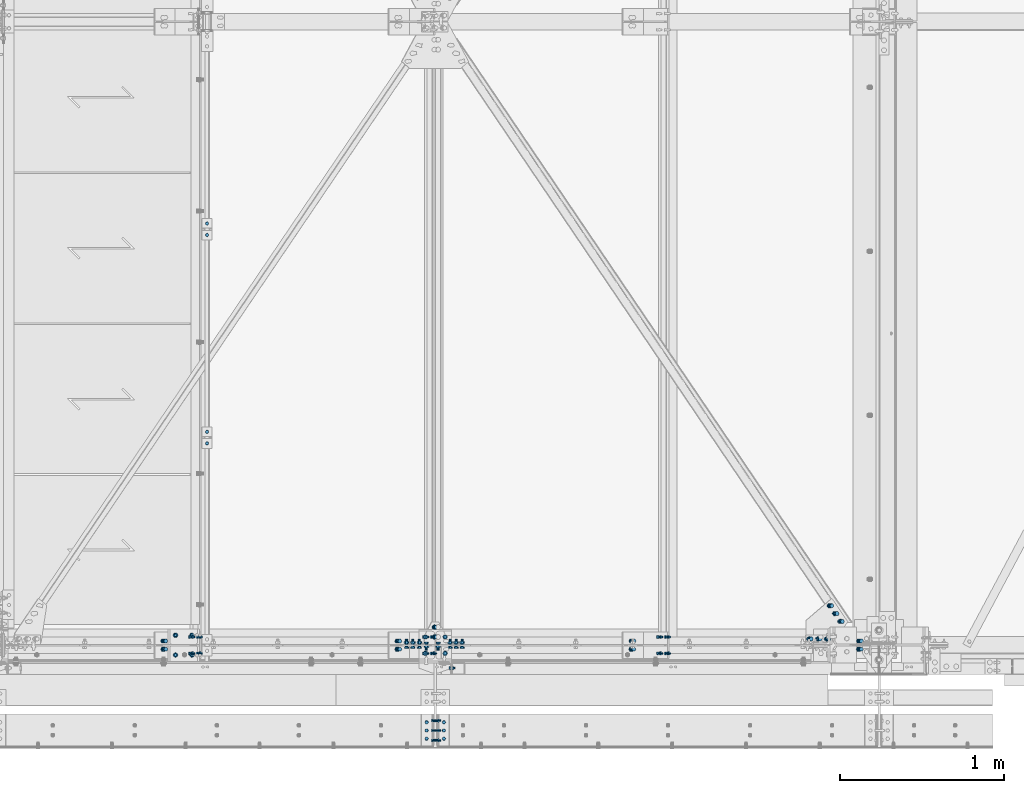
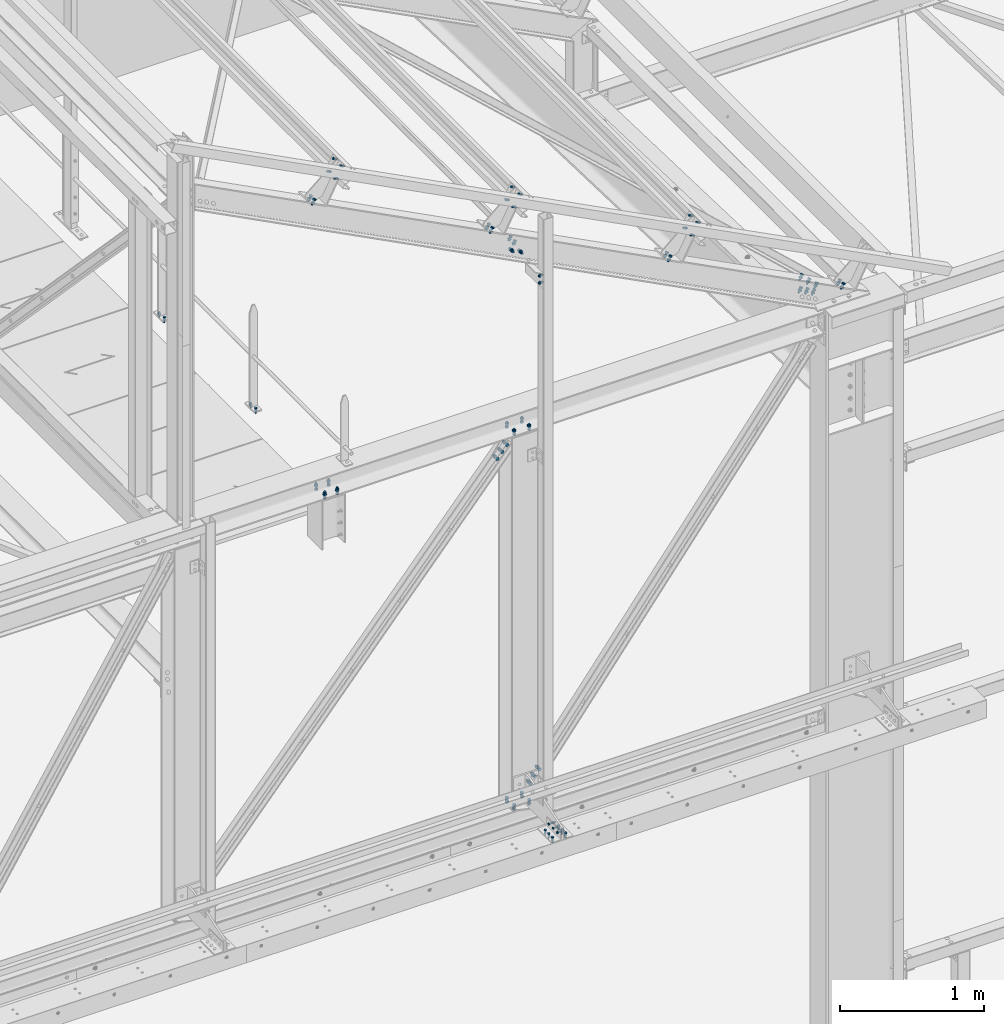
# One storey, part 165 of 362: 22 mechanical fasteners.
"""IFC2X3 building model written with IfcOpenShell, lengths in millimetres."""

from ifc_helpers import new_model, si_unit, frame, frame_2d, origin_with_axes, origin_2d_with_axis, place, context, subcontext, project, spatial, polyline, circle_curve, parameter, trimmed, segment, composite_curve, circle, outline, extrude, source, transform, mapped, material, type_object, element, save


model = new_model("IFC2X3")

# Units and contexts
model_context = context("Model", 3, precision=1e-05, world=origin_with_axes())
body_context = subcontext(model_context, "Body", "Model", "MODEL_VIEW")
ifc_project = project(units=[si_unit("LENGTHUNIT", "METRE", prefix="MILLI"), si_unit("AREAUNIT", "SQUARE_METRE"), si_unit("VOLUMEUNIT", "CUBIC_METRE"), si_unit("MASSUNIT", "GRAM", prefix="KILO"), si_unit("TIMEUNIT", "SECOND"), si_unit("PLANEANGLEUNIT", "RADIAN"), si_unit("SOLIDANGLEUNIT", "STERADIAN"), si_unit("THERMODYNAMICTEMPERATUREUNIT", "DEGREE_CELSIUS"), si_unit("LUMINOUSINTENSITYUNIT", "LUMEN")], contexts=[model_context])

# Site, building, storey
site_placement = place(None, origin_with_axes())
site = spatial("IfcSite", under=ifc_project, at=site_placement, Name="Undefined", CompositionType="ELEMENT")
building_placement = place(site_placement, origin_with_axes())
building = spatial("IfcBuilding", under=site, at=building_placement, Name="Undefined", CompositionType="ELEMENT")
storey_placement = place(building_placement, origin_with_axes())
storey = spatial("IfcBuildingStorey", under=building, at=storey_placement, Name="Undefined", CompositionType="ELEMENT", Elevation=0.0)

# Mechanical fasteners
ifc_material_1 = material(Name="8.8-SB-ZINGUE")
mechanical_fastener_type = type_object("IfcMechanicalFastenerType", Name="Bolt assembly")
shared_shape_1 = source(origin_with_axes(), body_context, "Body", "SweptSolid", [
    extrude(circle(Radius=7.0, at=origin_2d_with_axis()), frame((0.0, -7.5, 0.0), z_axis=(0.0, 1.0, 0.0), x_axis=(1.0, 0.0, 0.0)), (0.0, 0.0, 1.0), 15.0),
    extrude(circle(Radius=7.0, at=origin_2d_with_axis()), frame((0.0, -15.4, 0.0), z_axis=(0.0, 1.0, 0.0), x_axis=(1.0, 0.0, 0.0)), (0.0, 0.0, 1.0), 8.0),
    extrude(circle(Radius=7.0, at=origin_2d_with_axis()), frame((0.0, 7.39216762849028, 0.0), z_axis=(0.0, 1.0, 0.0), x_axis=(1.0, 0.0, 0.0)), (0.0, 0.0, 1.0), 8.1),
    extrude(outline(polyline([(10.39230484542, 0.0), (5.19615242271, 9.00000000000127), (-5.19615242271, 9.00000000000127), (-10.39230484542, 0.0), (-5.19615242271, -9.00000000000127), (5.19615242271, -9.00000000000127), (10.39230484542, 0.0)])), frame((0.0, -23.42, 0.0), z_axis=(0.0, 1.0, 0.0), x_axis=(1.0, 0.0, 0.0)), (0.0, 0.0, 1.0), 7.92),
    extrude(circle(Radius=6.0, at=origin_2d_with_axis()), frame((0.0, -15.5, 0.0), z_axis=(0.0, 1.0, 0.0), x_axis=(1.0, 0.0, 0.0)), (0.0, 0.0, 1.0), 50.0),
    extrude(outline(polyline([(11.5008173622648, 0.0), (5.7504086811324, 9.96000000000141), (-5.7504086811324, 9.96000000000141), (-11.5008173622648, 0.0), (-5.7504086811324, -9.96000000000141), (5.7504086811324, -9.96000000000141), (11.5008173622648, 0.0)])), frame((0.0, 15.4921676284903, 0.0), z_axis=(0.0, 1.0, 0.0), x_axis=(1.0, 0.0, 0.0)), (0.0, 0.0, 1.0), 7.92),
])
mechanical_fastener_1_placement = place(storey_placement, frame((26175.0, -520.0, 5274.99824538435), z_axis=(0.0, -1.0, 0.0), x_axis=(0.0, 0.0, -1.0)))
element("IfcMechanicalFastener", 1, at=mechanical_fastener_1_placement, inside=storey, type_object=mechanical_fastener_type, material=ifc_material_1, Name="Bolt assembly", NominalDiameter=12.0, NominalLength=50.0, context=body_context, shape_type="MappedRepresentation", body=[
    mapped(shared_shape_1, transform((0.0, 0.0, -60.0))),
    mapped(shared_shape_1, transform((0.0, 0.0, 0.0))),
    mapped(shared_shape_1, transform((0.0, 0.0, 60.0))),
])
shared_shape_2 = source(origin_with_axes(), body_context, "Body", "SweptSolid", [
    extrude(circle(Radius=7.0, at=origin_2d_with_axis()), frame((0.0, -0.100011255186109, 0.0), z_axis=(0.0, 1.0, 0.0), x_axis=(1.0, 0.0, 0.0)), (0.0, 0.0, 1.0), 8.6),
    extrude(circle(Radius=7.0, at=origin_2d_with_axis()), frame((0.0, -7.9, 0.0), z_axis=(0.0, 1.0, 0.0), x_axis=(1.0, 0.0, 0.0)), (0.0, 0.0, 1.0), 8.0),
    extrude(outline(polyline([(10.39230484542, 0.0), (5.19615242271, 9.00000000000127), (-5.19615242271, 9.00000000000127), (-10.39230484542, 0.0), (-5.19615242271, -9.00000000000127), (5.19615242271, -9.00000000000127), (10.39230484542, 0.0)])), frame((0.0, -15.92, 0.0), z_axis=(0.0, 1.0, 0.0), x_axis=(1.0, 0.0, 0.0)), (0.0, 0.0, 1.0), 7.92),
    extrude(circle(Radius=6.0, at=origin_2d_with_axis()), frame((0.0, -8.0, 0.0), z_axis=(0.0, 1.0, 0.0), x_axis=(1.0, 0.0, 0.0)), (0.0, 0.0, 1.0), 40.0),
    extrude(outline(polyline([(11.5008173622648, 0.0), (5.7504086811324, 9.96000000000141), (-5.7504086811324, 9.96000000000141), (-11.5008173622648, 0.0), (-5.7504086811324, -9.96000000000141), (5.7504086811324, -9.96000000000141), (11.5008173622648, 0.0)])), frame((0.0, 8.49999994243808, 0.0), z_axis=(0.0, 1.0, 0.0), x_axis=(1.0, 0.0, 0.0)), (0.0, 0.0, 1.0), 7.92),
])
for number, where, z_axis, x_axis, name in (
    (2, (26227.4921676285, -520.0, 5229.99824532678), (0.0, -1.0, 0.0), (-1.0, 0.0, 0.0), "Bolt assembly"),
    (3, (26122.5, -520.0, 5229.99824532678), (0.0, 1.0, 0.0), (1.0, 0.0, 0.0), "Bolt assembly"),
):
    element("IfcMechanicalFastener", number, at=place(storey_placement, frame(where, z_axis=z_axis, x_axis=x_axis)), inside=storey, type_object=mechanical_fastener_type, material=ifc_material_1, Name=name, NominalDiameter=12.0, NominalLength=40.0, context=body_context, shape_type="MappedRepresentation", body=[
        mapped(shared_shape_2, transform((0.0, 0.0, -50.0))),
        mapped(shared_shape_2, transform((0.0, 0.0, 0.0))),
        mapped(shared_shape_2, transform((0.0, 0.0, 50.0))),
    ])
shared_shape_3 = source(origin_with_axes(), body_context, "Body", "SweptSolid", [
    extrude(circle(Radius=7.0, at=origin_2d_with_axis()), frame((0.0, -0.100011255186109, 0.0), z_axis=(0.0, 1.0, 0.0), x_axis=(1.0, 0.0, 0.0)), (0.0, 0.0, 1.0), 4.1),
    extrude(outline(composite_curve([segment(polyline([(-10.5, 7.0), (10.5, 7.0)]), True, "CONTINUOUS"), segment(trimmed(circle_curve(frame_2d((10.5, 0.0), x_axis=(0.0, 1.0)), 7.0), [parameter(0.0)], [parameter(3.14159265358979)], False, "PARAMETER"), True, "CONTINUOUS"), segment(polyline([(10.5, -7.0), (-10.5, -7.0)]), True, "CONTINUOUS"), segment(trimmed(circle_curve(frame_2d((-10.5, 0.0), x_axis=(0.0, -1.0)), 7.0), [parameter(0.0)], [parameter(3.14159265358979)], False, "PARAMETER"), True, "DISCONTINUOUS")], self_intersect=False)), frame((0.0, -4.90000000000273, 0.0), z_axis=(0.0, 1.0, 0.0), x_axis=(1.0, 0.0, 0.0)), (0.0, 0.0, 1.0), 5.0),
    extrude(outline(polyline([(10.39230484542, 0.0), (5.19615242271, 9.00000000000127), (-5.19615242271, 9.00000000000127), (-10.39230484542, 0.0), (-5.19615242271, -9.00000000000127), (5.19615242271, -9.00000000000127), (10.39230484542, 0.0)])), frame((0.0, -16.8799999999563, 0.0), z_axis=(0.0, 1.0, 0.0), x_axis=(1.0, 0.0, 0.0)), (0.0, 0.0, 1.0), 7.92),
    extrude(circle(Radius=6.0, at=origin_2d_with_axis()), frame((0.0, -8.95999999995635, 0.0), z_axis=(0.0, 1.0, 0.0), x_axis=(1.0, 0.0, 0.0)), (0.0, 0.0, 1.0), 30.0),
    extrude(circle(Radius=10.8, at=origin_2d_with_axis()), frame((0.0, -8.95999999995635, 0.0), z_axis=(0.0, 1.0, 0.0), x_axis=(1.0, 0.0, 0.0)), (0.0, 0.0, 1.0), 3.96),
    extrude(outline(polyline([(11.5008173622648, 0.0), (5.7504086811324, 9.96000000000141), (-5.7504086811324, 9.96000000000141), (-11.5008173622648, 0.0), (-5.7504086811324, -9.96000000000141), (5.7504086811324, -9.96000000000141), (11.5008173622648, 0.0)])), frame((0.0, 4.00000005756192, 0.0), z_axis=(0.0, 1.0, 0.0), x_axis=(1.0, 0.0, 0.0)), (0.0, 0.0, 1.0), 7.92),
])
mechanical_fastener_2_placement = place(storey_placement, frame((26274.9999999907, -139.999999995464, 9626.46897402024), z_axis=(0.0, 1.0, 0.0), x_axis=(0.0, 0.0, 1.0)))
element("IfcMechanicalFastener", 4, at=mechanical_fastener_2_placement, inside=storey, type_object=mechanical_fastener_type, material=ifc_material_1, Name="Bolt assembly", NominalDiameter=12.0, NominalLength=30.0, context=body_context, shape_type="MappedRepresentation", body=[
    mapped(shared_shape_3, transform((0.0, 0.0, 0.0))),
    mapped(shared_shape_3, transform((60.0, 0.0, 0.0))),
])
shared_shape_4 = source(origin_with_axes(), body_context, "Body", "SweptSolid", [
    extrude(circle(Radius=9.0, at=origin_2d_with_axis()), frame((0.0, -10.9000000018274, 0.0), z_axis=(0.0, 1.0, 0.0), x_axis=(1.0, 0.0, 0.0)), (0.0, 0.0, 1.0), 6.0),
    extrude(circle(Radius=9.0, at=origin_2d_with_axis()), frame((0.0, 4.9000000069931, 0.0), z_axis=(0.0, 1.0, 0.0), x_axis=(1.0, 0.0, 0.0)), (0.0, 0.0, 1.0), 6.1),
    extrude(circle(Radius=9.0, at=origin_2d_with_axis()), frame((0.0, -3.99999923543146, 0.0), z_axis=(0.0, 1.0, 0.0), x_axis=(1.0, 0.0, 0.0)), (0.0, 0.0, 1.0), 8.0),
    extrude(outline(polyline([(13.85640646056, 0.0), (6.92820323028, 12.0000000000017), (-6.92820323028, 12.0000000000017), (-13.85640646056, 0.0), (-6.92820323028, -12.0000000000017), (6.92820323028, -12.0000000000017), (13.85640646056, 0.0)])), frame((0.0, -21.5600000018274, 0.0), z_axis=(0.0, 1.0, 0.0), x_axis=(1.0, 0.0, 0.0)), (0.0, 0.0, 1.0), 10.56),
    extrude(circle(Radius=8.0, at=origin_2d_with_axis()), frame((0.0, -11.0000000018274, 0.0), z_axis=(0.0, 1.0, 0.0), x_axis=(1.0, 0.0, 0.0)), (0.0, 0.0, 1.0), 50.0),
    extrude(outline(polyline([(15.3344231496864, 0.0), (7.6672115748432, 13.2800000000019), (-7.6672115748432, 13.2800000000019), (-15.3344231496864, 0.0), (-7.6672115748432, -13.2800000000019), (7.6672115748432, -13.2800000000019), (15.3344231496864, 0.0)])), frame((0.0, 11.0000000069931, 0.0), z_axis=(0.0, 1.0, 0.0), x_axis=(1.0, 0.0, 0.0)), (0.0, 0.0, 1.0), 10.56),
])
for number, where, z_axis, x_axis, name in (
    (5, (26077.6333130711, 0.0, 8245.89514782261), (0.760694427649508, 0.0, -0.649110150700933), (-0.649110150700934, 0.0, -0.760694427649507), "Bolt assembly"),
    (6, (26265.6621353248, 0.0, 5309.5067793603), (-0.796670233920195, 0.0, 0.604414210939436), (0.604414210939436, 0.0, 0.796670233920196), "Bolt assembly"),
):
    element("IfcMechanicalFastener", number, at=place(storey_placement, frame(where, z_axis=z_axis, x_axis=x_axis)), inside=storey, type_object=mechanical_fastener_type, material=ifc_material_1, Name=name, NominalDiameter=16.0, NominalLength=50.0, context=body_context, shape_type="MappedRepresentation", body=[
        mapped(shared_shape_4, transform((0.0, 0.0, 0.0))),
        mapped(shared_shape_4, transform((60.0, 0.0, 0.0))),
        mapped(shared_shape_4, transform((120.0, 0.0, 0.0))),
    ])
shared_shape_5 = source(origin_with_axes(), body_context, "Body", "SweptSolid", [
    extrude(circle(Radius=7.0, at=origin_2d_with_axis()), frame((0.0, -10.0000010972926, 0.0), z_axis=(0.0, 1.0, 0.0), x_axis=(1.0, 0.0, 0.0)), (0.0, 0.0, 1.0), 10.1),
    extrude(outline(polyline([(10.39230484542, 0.0), (5.19615242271, 9.00000000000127), (-5.19615242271, 9.00000000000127), (-10.39230484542, 0.0), (-5.19615242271, -9.00000000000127), (5.19615242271, -9.00000000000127), (10.39230484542, 0.0)])), frame((0.0, -17.92, 0.0), z_axis=(0.0, 1.0, 0.0), x_axis=(1.0, 0.0, 0.0)), (0.0, 0.0, 1.0), 7.92),
    extrude(circle(Radius=6.0, at=origin_2d_with_axis()), frame((0.0, -10.0000010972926, 0.0), z_axis=(0.0, 1.0, 0.0), x_axis=(1.0, 0.0, 0.0)), (0.0, 0.0, 1.0), 40.0),
    extrude(outline(polyline([(11.5008173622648, 0.0), (5.7504086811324, 9.96000000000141), (-5.7504086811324, 9.96000000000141), (-11.5008173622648, 0.0), (-5.7504086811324, -9.96000000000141), (5.7504086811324, -9.96000000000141), (11.5008173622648, 0.0)])), frame((0.0, 0.0, 0.0), z_axis=(0.0, 1.0, 0.0), x_axis=(1.0, 0.0, 0.0)), (0.0, 0.0, 1.0), 7.92),
])
for number, where, z_axis, x_axis, name in (
    (7, (24783.9915986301, 1230.00343957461, 8240.0000064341), (-1.0, 0.0, 0.0), (0.0, 1.0, 0.0), "Bolt assembly"),
    (8, (24783.9915996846, 2500.00343957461, 8240.00000556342), (-1.0, 0.0, 0.0), (0.0, 1.0, 0.0), "Bolt assembly"),
):
    element("IfcMechanicalFastener", number, at=place(storey_placement, frame(where, z_axis=z_axis, x_axis=x_axis)), inside=storey, type_object=mechanical_fastener_type, material=ifc_material_1, Name=name, NominalDiameter=12.0, NominalLength=40.0, context=body_context, shape_type="MappedRepresentation", body=[
        mapped(shared_shape_5, transform((0.0, 0.0, 0.0))),
        mapped(shared_shape_5, transform((70.0, -2.91038304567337e-11, 2.18278728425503e-10))),
    ])
shared_shape_6 = source(origin_with_axes(), body_context, "Body", "SweptSolid", [
    extrude(circle(Radius=9.0, at=origin_2d_with_axis()), frame((0.0, -0.0990448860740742, 0.0), z_axis=(0.0, 1.0, 0.0), x_axis=(1.0, 0.0, 0.0)), (0.0, 0.0, 1.0), 10.1),
    extrude(circle(Radius=9.0, at=origin_2d_with_axis()), frame((0.0, -9.9, 0.0), z_axis=(0.0, 1.0, 0.0), x_axis=(1.0, 0.0, 0.0)), (0.0, 0.0, 1.0), 10.0),
    extrude(outline(polyline([(13.85640646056, 0.0), (6.92820323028, 12.0000000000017), (-6.92820323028, 12.0000000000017), (-13.85640646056, 0.0), (-6.92820323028, -12.0000000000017), (6.92820323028, -12.0000000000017), (13.85640646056, 0.0)])), frame((0.0, -20.5600000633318, 0.0), z_axis=(0.0, 1.0, 0.0), x_axis=(1.0, 0.0, 0.0)), (0.0, 0.0, 1.0), 10.56),
    extrude(circle(Radius=8.0, at=origin_2d_with_axis()), frame((0.0, -10.0000010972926, 0.0), z_axis=(0.0, 1.0, 0.0), x_axis=(1.0, 0.0, 0.0)), (0.0, 0.0, 1.0), 50.0),
    extrude(circle(Radius=14.4, at=origin_2d_with_axis()), frame((0.0, 10.0009790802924, 0.0), z_axis=(0.0, 1.0, 0.0), x_axis=(1.0, 0.0, 0.0)), (0.0, 0.0, 1.0), 5.28),
    extrude(outline(polyline([(15.3344231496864, 0.0), (7.6672115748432, 13.2800000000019), (-7.6672115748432, 13.2800000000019), (-15.3344231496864, 0.0), (-7.6672115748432, -13.2800000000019), (7.6672115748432, -13.2800000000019), (15.3344231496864, 0.0)])), frame((0.0, 15.2809790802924, 0.0), z_axis=(0.0, 1.0, 0.0), x_axis=(1.0, 0.0, 0.0)), (0.0, 0.0, 1.0), 10.56),
])
mechanical_fastener_3_placement = place(storey_placement, frame((24591.4916208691, 0.0, 8359.99444987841), z_axis=(0.0, -1.0, 0.0), x_axis=(1.0, 0.0, 0.0)))
element("IfcMechanicalFastener", 9, at=mechanical_fastener_3_placement, inside=storey, type_object=mechanical_fastener_type, material=ifc_material_1, Name="Bolt assembly", NominalDiameter=16.0, NominalLength=50.0, context=body_context, shape_type="MappedRepresentation", body=[
    mapped(shared_shape_6, transform((0.0, 0.0, -60.0))),
    mapped(shared_shape_6, transform((99.9999999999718, 0.0, -60.0000000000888))),
    mapped(shared_shape_6, transform((0.0, 0.0, 60.0))),
    mapped(shared_shape_6, transform((100.000000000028, 0.0, 59.9999999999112))),
])
ifc_material_2 = material(Name="#_SB-8.8-ZINGUE")
shared_shape_7 = source(origin_with_axes(), body_context, "Body", "SweptSolid", [
    extrude(circle(Radius=9.0, at=origin_2d_with_axis()), frame((0.0, -5.8999542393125, 0.0), z_axis=(0.0, 1.0, 0.0), x_axis=(1.0, 0.0, 0.0)), (0.0, 0.0, 1.0), 6.0),
    extrude(circle(Radius=9.0, at=origin_2d_with_axis()), frame((0.0, -0.100011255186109, 0.0), z_axis=(0.0, 1.0, 0.0), x_axis=(1.0, 0.0, 0.0)), (0.0, 0.0, 1.0), 6.1),
    extrude(outline(polyline([(13.85640646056, 0.0), (6.92820323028, 12.0000000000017), (-6.92820323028, 12.0000000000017), (-13.85640646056, 0.0), (-6.92820323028, -12.0000000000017), (6.92820323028, -12.0000000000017), (13.85640646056, 0.0)])), frame((0.0, -16.5599209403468, 0.0), z_axis=(0.0, 1.0, 0.0), x_axis=(1.0, 0.0, 0.0)), (0.0, 0.0, 1.0), 10.56),
    extrude(circle(Radius=8.0, at=origin_2d_with_axis()), frame((0.0, -5.9999542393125, 0.0), z_axis=(0.0, 1.0, 0.0), x_axis=(1.0, 0.0, 0.0)), (0.0, 0.0, 1.0), 40.0),
    extrude(outline(polyline([(15.3344231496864, 0.0), (7.6672115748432, 13.2800000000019), (-7.6672115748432, 13.2800000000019), (-15.3344231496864, 0.0), (-7.6672115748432, -13.2800000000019), (7.6672115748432, -13.2800000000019), (15.3344231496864, 0.0)])), frame((0.0, 6.0, 0.0), z_axis=(0.0, 1.0, 0.0), x_axis=(1.0, 0.0, 0.0)), (0.0, 0.0, 1.0), 10.56),
])
mechanical_fastener_4_placement = place(storey_placement, frame((28648.8207074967, 144.810250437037, 8608.987696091), z_axis=(-0.706117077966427, -0.606225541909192, 0.365908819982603), x_axis=(-0.538249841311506, 0.795292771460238, 0.278920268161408)))
element("IfcMechanicalFastener", 10, at=mechanical_fastener_4_placement, inside=storey, type_object=mechanical_fastener_type, material=ifc_material_2, Name="Bolt assembly", NominalDiameter=16.0, NominalLength=40.0, context=body_context, shape_type="MappedRepresentation", body=[
    mapped(shared_shape_7, transform((0.0, 0.0, 0.0))),
    mapped(shared_shape_7, transform((60.0, 0.0, 0.0))),
    mapped(shared_shape_7, transform((120.0, 0.0, 0.0))),
])
shared_shape_8 = source(origin_with_axes(), body_context, "Body", "SweptSolid", [
    extrude(circle(Radius=7.0, at=origin_2d_with_axis()), frame((0.0, -0.100011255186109, 0.0), z_axis=(0.0, 1.0, 0.0), x_axis=(1.0, 0.0, 0.0)), (0.0, 0.0, 1.0), 1.6),
    extrude(circle(Radius=7.0, at=origin_2d_with_axis()), frame((0.0, -9.9, 0.0), z_axis=(0.0, 1.0, 0.0), x_axis=(1.0, 0.0, 0.0)), (0.0, 0.0, 1.0), 10.0),
    extrude(outline(polyline([(10.39230484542, 0.0), (5.19615242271, 9.00000000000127), (-5.19615242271, 9.00000000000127), (-10.39230484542, 0.0), (-5.19615242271, -9.00000000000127), (5.19615242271, -9.00000000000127), (10.39230484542, 0.0)])), frame((0.0, -17.92, 0.0), z_axis=(0.0, 1.0, 0.0), x_axis=(1.0, 0.0, 0.0)), (0.0, 0.0, 1.0), 7.92),
    extrude(circle(Radius=6.0, at=origin_2d_with_axis()), frame((0.0, -10.0000010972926, 0.0), z_axis=(0.0, 1.0, 0.0), x_axis=(1.0, 0.0, 0.0)), (0.0, 0.0, 1.0), 30.0),
    extrude(outline(polyline([(11.5008173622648, 0.0), (5.7504086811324, 9.96000000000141), (-5.7504086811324, 9.96000000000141), (-11.5008173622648, 0.0), (-5.7504086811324, -9.96000000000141), (5.7504086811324, -9.96000000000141), (11.5008173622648, 0.0)])), frame((0.0, 1.50001896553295, 0.0), z_axis=(0.0, 1.0, 0.0), x_axis=(1.0, 0.0, 0.0)), (0.0, 0.0, 1.0), 7.92),
])
for number, where, z_axis, x_axis, name in (
    (11, (24690.1060148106, 5.9655603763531e-05, 11008.4114172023), (0.0, 1.0, 0.0), (0.460093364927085, 0.0, 0.887870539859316), "Bolt assembly"),
    (12, (27543.3560162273, 5.9655603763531e-05, 9529.86146341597), (0.0, 1.0, 0.0), (0.460093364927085, 0.0, 0.887870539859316), "Bolt assembly"),
    (13, (26116.7310155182, 5.9655603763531e-05, 10269.1364403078), (0.0, 1.0, 0.0), (0.460093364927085, 0.0, 0.887870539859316), "Bolt assembly"),
):
    element("IfcMechanicalFastener", number, at=place(storey_placement, frame(where, z_axis=z_axis, x_axis=x_axis)), inside=storey, type_object=mechanical_fastener_type, material=ifc_material_1, Name=name, NominalDiameter=12.0, NominalLength=30.0, context=body_context, shape_type="MappedRepresentation", body=[
        mapped(shared_shape_8, transform((0.0, 0.0, -50.0))),
        mapped(shared_shape_8, transform((102.00000000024, -2.51020537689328e-10, -50.0))),
        mapped(shared_shape_8, transform((0.0, 0.0, 50.0))),
        mapped(shared_shape_8, transform((102.00000000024, -2.51020537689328e-10, 50.0))),
    ])
shared_shape_9 = source(origin_with_axes(), body_context, "Body", "SweptSolid", [
    extrude(circle(Radius=9.0, at=origin_2d_with_axis()), frame((0.0, -0.0999426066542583, 0.0), z_axis=(0.0, 1.0, 0.0), x_axis=(1.0, 0.0, 0.0)), (0.0, 0.0, 1.0), 8.6),
    extrude(circle(Radius=9.0, at=origin_2d_with_axis()), frame((0.0, -9.9, 0.0), z_axis=(0.0, 1.0, 0.0), x_axis=(1.0, 0.0, 0.0)), (0.0, 0.0, 1.0), 10.0),
    extrude(outline(polyline([(13.85640646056, 0.0), (6.92820323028, 12.0000000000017), (-6.92820323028, 12.0000000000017), (-13.85640646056, 0.0), (-6.92820323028, -12.0000000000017), (6.92820323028, -12.0000000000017), (13.85640646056, 0.0)])), frame((0.0, -20.5600000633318, 0.0), z_axis=(0.0, 1.0, 0.0), x_axis=(1.0, 0.0, 0.0)), (0.0, 0.0, 1.0), 10.56),
    extrude(circle(Radius=8.0, at=origin_2d_with_axis()), frame((0.0, -10.0000010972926, 0.0), z_axis=(0.0, 1.0, 0.0), x_axis=(1.0, 0.0, 0.0)), (0.0, 0.0, 1.0), 40.0),
    extrude(outline(polyline([(15.3344231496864, 0.0), (7.6672115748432, 13.2800000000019), (-7.6672115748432, 13.2800000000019), (-15.3344231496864, 0.0), (-7.6672115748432, -13.2800000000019), (7.6672115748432, -13.2800000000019), (15.3344231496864, 0.0)])), frame((0.0, 8.50005763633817, 0.0), z_axis=(0.0, 1.0, 0.0), x_axis=(1.0, 0.0, 0.0)), (0.0, 0.0, 1.0), 10.56),
])
for number, where, z_axis, x_axis, name in (
    (14, (24522.9168670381, 3.75141407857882e-05, 10859.6539862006), (0.0, 1.0, 0.0), (0.887870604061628, 0.0, -0.460093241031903), "Bolt assembly"),
    (15, (28762.8377191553, 3.75141407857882e-05, 8662.53323728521), (0.0, 1.0, 0.0), (0.887870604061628, 0.0, -0.460093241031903), "Bolt assembly"),
    (16, (27376.1668684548, 3.75141407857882e-05, 9381.10403241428), (0.0, 1.0, 0.0), (0.887870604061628, 0.0, -0.460093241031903), "Bolt assembly"),
    (17, (25949.5418677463, 3.75141407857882e-05, 10120.3790093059), (0.0, 1.0, 0.0), (0.887870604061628, 0.0, -0.460093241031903), "Bolt assembly"),
):
    element("IfcMechanicalFastener", number, at=place(storey_placement, frame(where, z_axis=z_axis, x_axis=x_axis)), inside=storey, type_object=mechanical_fastener_type, material=ifc_material_1, Name=name, NominalDiameter=16.0, NominalLength=40.0, context=body_context, shape_type="MappedRepresentation", body=[
        mapped(shared_shape_9, transform((0.0, 0.0, -25.0))),
        mapped(shared_shape_9, transform((0.0, 0.0, 25.0))),
    ])
shared_shape_10 = source(origin_with_axes(), body_context, "Body", "SweptSolid", [
    extrude(circle(Radius=9.0, at=origin_2d_with_axis()), frame((0.0, 0.1, 0.0), z_axis=(0.0, 1.0, 0.0), x_axis=(1.0, 0.0, 0.0)), (0.0, 0.0, 1.0), 6.0),
    extrude(circle(Radius=9.0, at=origin_2d_with_axis()), frame((0.0, 5.90008092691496, 0.0), z_axis=(0.0, 1.0, 0.0), x_axis=(1.0, 0.0, 0.0)), (0.0, 0.0, 1.0), 6.1),
    extrude(outline(polyline([(13.85640646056, 0.0), (6.92820323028, 12.0000000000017), (-6.92820323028, 12.0000000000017), (-13.85640646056, 0.0), (-6.92820323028, -12.0000000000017), (6.92820323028, -12.0000000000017), (13.85640646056, 0.0)])), frame((0.0, -10.5600019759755, 0.0), z_axis=(0.0, 1.0, 0.0), x_axis=(1.0, 0.0, 0.0)), (0.0, 0.0, 1.0), 10.56),
    extrude(circle(Radius=8.0, at=origin_2d_with_axis()), frame((0.0, 0.0, 0.0), z_axis=(0.0, 1.0, 0.0), x_axis=(1.0, 0.0, 0.0)), (0.0, 0.0, 1.0), 40.0),
    extrude(outline(polyline([(15.3344231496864, 0.0), (7.6672115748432, 13.2800000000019), (-7.6672115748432, 13.2800000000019), (-15.3344231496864, 0.0), (-7.6672115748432, -13.2800000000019), (7.6672115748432, -13.2800000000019), (15.3344231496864, 0.0)])), frame((0.0, 12.0000809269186, 0.0), z_axis=(0.0, 1.0, 0.0), x_axis=(1.0, 0.0, 0.0)), (0.0, 0.0, 1.0), 10.56),
])
mechanical_fastener_5_placement = place(storey_placement, frame((28515.9801891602, 38.0001352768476, 8677.82543370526), z_axis=(0.887870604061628, 0.0, -0.460093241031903), x_axis=(0.0, -1.0, 0.0)))
element("IfcMechanicalFastener", 18, at=mechanical_fastener_5_placement, inside=storey, type_object=mechanical_fastener_type, material=ifc_material_2, Name="Bolt assembly", NominalDiameter=16.0, NominalLength=40.0, context=body_context, shape_type="MappedRepresentation", body=[
    mapped(shared_shape_10, transform((0.0, 0.0, -60.0))),
    mapped(shared_shape_10, transform((0.0, 0.0, 0.0))),
    mapped(shared_shape_10, transform((0.0, 0.0, 60.0))),
])
shared_shape_11 = source(origin_with_axes(), body_context, "Body", "SweptSolid", [
    extrude(circle(Radius=9.0, at=origin_2d_with_axis()), frame((0.0, -2.89976548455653, 0.0), z_axis=(0.0, 1.0, 0.0), x_axis=(1.0, 0.0, 0.0)), (0.0, 0.0, 1.0), 5.7),
    extrude(circle(Radius=9.0, at=origin_2d_with_axis()), frame((0.0, -8.90005437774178, 0.0), z_axis=(0.0, 1.0, 0.0), x_axis=(1.0, 0.0, 0.0)), (0.0, 0.0, 1.0), 6.0),
    extrude(outline(polyline([(13.85640646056, 0.0), (6.92820323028, 12.0000000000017), (-6.92820323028, 12.0000000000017), (-13.85640646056, 0.0), (-6.92820323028, -12.0000000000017), (6.92820323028, -12.0000000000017), (13.85640646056, 0.0)])), frame((0.0, -19.5600543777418, 0.0), z_axis=(0.0, 1.0, 0.0), x_axis=(1.0, 0.0, 0.0)), (0.0, 0.0, 1.0), 10.56),
    extrude(circle(Radius=8.0, at=origin_2d_with_axis()), frame((0.0, -9.00005437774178, 0.0), z_axis=(0.0, 1.0, 0.0), x_axis=(1.0, 0.0, 0.0)), (0.0, 0.0, 1.0), 40.0),
    extrude(outline(polyline([(15.3344231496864, 0.0), (7.6672115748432, 13.2800000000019), (-7.6672115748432, 13.2800000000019), (-15.3344231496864, 0.0), (-7.6672115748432, -13.2800000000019), (7.6672115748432, -13.2800000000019), (15.3344231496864, 0.0)])), frame((0.0, 2.80023442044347, 0.0), z_axis=(0.0, 1.0, 0.0), x_axis=(1.0, 0.0, 0.0)), (0.0, 0.0, 1.0), 10.56),
])
mechanical_fastener_6_placement = place(storey_placement, frame((26156.1371301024, 0.000199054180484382, 9854.51471383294), z_axis=(0.887870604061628, 0.0, -0.460093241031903), x_axis=(0.460093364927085, 0.0, 0.887870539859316)))
element("IfcMechanicalFastener", 19, at=mechanical_fastener_6_placement, inside=storey, type_object=mechanical_fastener_type, material=ifc_material_2, Name="Bolt assembly", NominalDiameter=16.0, NominalLength=40.0, context=body_context, shape_type="MappedRepresentation", body=[
    mapped(shared_shape_11, transform((0.0, 0.0, -40.0))),
    mapped(shared_shape_11, transform((0.0, 0.0, 40.0))),
])
shared_shape_12 = source(origin_with_axes(), body_context, "Body", "SweptSolid", [
    extrude(circle(Radius=9.0, at=origin_2d_with_axis()), frame((0.0, -3.89991628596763, 0.0), z_axis=(0.0, 1.0, 0.0), x_axis=(1.0, 0.0, 0.0)), (0.0, 0.0, 1.0), 4.0),
    extrude(circle(Radius=9.0, at=origin_2d_with_axis()), frame((0.0, -0.10007666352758, 0.0), z_axis=(0.0, 1.0, 0.0), x_axis=(1.0, 0.0, 0.0)), (0.0, 0.0, 1.0), 6.1),
    extrude(outline(polyline([(13.85640646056, 0.0), (6.92820323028, 12.0000000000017), (-6.92820323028, 12.0000000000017), (-13.85640646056, 0.0), (-6.92820323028, -12.0000000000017), (6.92820323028, -12.0000000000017), (13.85640646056, 0.0)])), frame((0.0, -14.55994727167, 0.0), z_axis=(0.0, 1.0, 0.0), x_axis=(1.0, 0.0, 0.0)), (0.0, 0.0, 1.0), 10.56),
    extrude(circle(Radius=8.0, at=origin_2d_with_axis()), frame((0.0, -3.99991628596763, 0.0), z_axis=(0.0, 1.0, 0.0), x_axis=(1.0, 0.0, 0.0)), (0.0, 0.0, 1.0), 30.0),
    extrude(outline(polyline([(15.3344231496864, 0.0), (7.6672115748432, 13.2800000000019), (-7.6672115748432, 13.2800000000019), (-15.3344231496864, 0.0), (-7.6672115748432, -13.2800000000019), (7.6672115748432, -13.2800000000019), (15.3344231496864, 0.0)])), frame((0.0, 6.0, 0.0), z_axis=(0.0, 1.0, 0.0), x_axis=(1.0, 0.0, 0.0)), (0.0, 0.0, 1.0), 10.56),
])
mechanical_fastener_7_placement = place(storey_placement, frame((26175.004317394, 50.0002539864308, 9890.91570238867), z_axis=(-0.887870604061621, -1.29999898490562e-08, 0.460093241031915), x_axis=(0.0, 1.0, 0.0)))
element("IfcMechanicalFastener", 20, at=mechanical_fastener_7_placement, inside=storey, type_object=mechanical_fastener_type, material=ifc_material_2, Name="Bolt assembly", NominalDiameter=16.0, NominalLength=30.0, context=body_context, shape_type="MappedRepresentation", body=[
    mapped(shared_shape_12, transform((0.0, 0.0, 0.0))),
    mapped(shared_shape_12, transform((60.0, 0.0, 0.0))),
])
shared_shape_13 = source(origin_with_axes(), body_context, "Body", "SweptSolid", [
    extrude(circle(Radius=9.0, at=origin_2d_with_axis()), frame((0.0, -0.0998569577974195, 0.0), z_axis=(0.0, 1.0, 0.0), x_axis=(1.0, 0.0, 0.0)), (0.0, 0.0, 1.0), 10.1),
    extrude(circle(Radius=9.0, at=origin_2d_with_axis()), frame((0.0, -9.9, 0.0), z_axis=(0.0, 1.0, 0.0), x_axis=(1.0, 0.0, 0.0)), (0.0, 0.0, 1.0), 10.0),
    extrude(outline(polyline([(13.85640646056, 0.0), (6.92820323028, 12.0000000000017), (-6.92820323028, 12.0000000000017), (-13.85640646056, 0.0), (-6.92820323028, -12.0000000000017), (6.92820323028, -12.0000000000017), (13.85640646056, 0.0)])), frame((0.0, -20.5600000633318, 0.0), z_axis=(0.0, 1.0, 0.0), x_axis=(1.0, 0.0, 0.0)), (0.0, 0.0, 1.0), 10.56),
    extrude(circle(Radius=8.0, at=origin_2d_with_axis()), frame((0.0, -10.0000010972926, 0.0), z_axis=(0.0, 1.0, 0.0), x_axis=(1.0, 0.0, 0.0)), (0.0, 0.0, 1.0), 40.0),
    extrude(outline(polyline([(15.3344231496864, 0.0), (7.6672115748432, 13.2800000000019), (-7.6672115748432, 13.2800000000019), (-15.3344231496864, 0.0), (-7.6672115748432, -13.2800000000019), (7.6672115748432, -13.2800000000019), (15.3344231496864, 0.0)])), frame((0.0, 10.0001086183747, 0.0), z_axis=(0.0, 1.0, 0.0), x_axis=(1.0, 0.0, 0.0)), (0.0, 0.0, 1.0), 10.56),
])
mechanical_fastener_8_placement = place(storey_placement, frame((26235.0013899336, 0.0, 5190.00068570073), z_axis=(0.0, -1.0, 0.0), x_axis=(-1.0, 0.0, 0.0)))
element("IfcMechanicalFastener", 21, at=mechanical_fastener_8_placement, inside=storey, type_object=mechanical_fastener_type, material=ifc_material_1, Name="Bolt assembly", NominalDiameter=16.0, NominalLength=40.0, context=body_context, shape_type="MappedRepresentation", body=[
    mapped(shared_shape_13, transform((0.0, 0.0, -50.0))),
    mapped(shared_shape_13, transform((120.0, -4.36557456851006e-10, -50.0))),
    mapped(shared_shape_13, transform((0.0, 0.0, 50.0))),
    mapped(shared_shape_13, transform((120.0, -4.36557456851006e-10, 50.0))),
])
shared_shape_14 = source(origin_with_axes(), body_context, "Body", "SweptSolid", [
    extrude(circle(Radius=9.0, at=origin_2d_with_axis()), frame((0.0, -0.104291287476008, 0.0), z_axis=(0.0, 1.0, 0.0), x_axis=(1.0, 0.0, 0.0)), (0.0, 0.0, 1.0), 10.1),
    extrude(circle(Radius=9.0, at=origin_2d_with_axis()), frame((0.0, -9.9, 0.0), z_axis=(0.0, 1.0, 0.0), x_axis=(1.0, 0.0, 0.0)), (0.0, 0.0, 1.0), 10.0),
    extrude(outline(polyline([(13.85640646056, 0.0), (6.92820323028, 12.0000000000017), (-6.92820323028, 12.0000000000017), (-13.85640646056, 0.0), (-6.92820323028, -12.0000000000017), (6.92820323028, -12.0000000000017), (13.85640646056, 0.0)])), frame((0.0, -20.5600000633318, 0.0), z_axis=(0.0, 1.0, 0.0), x_axis=(1.0, 0.0, 0.0)), (0.0, 0.0, 1.0), 10.56),
    extrude(circle(Radius=8.0, at=origin_2d_with_axis()), frame((0.0, -10.0000010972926, 0.0), z_axis=(0.0, 1.0, 0.0), x_axis=(1.0, 0.0, 0.0)), (0.0, 0.0, 1.0), 40.0),
    extrude(outline(polyline([(15.3344231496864, 0.0), (7.6672115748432, 13.2800000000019), (-7.6672115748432, 13.2800000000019), (-15.3344231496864, 0.0), (-7.6672115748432, -13.2800000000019), (7.6672115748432, -13.2800000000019), (15.3344231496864, 0.0)])), frame((0.0, 9.99570871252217, 0.0), z_axis=(0.0, 1.0, 0.0), x_axis=(1.0, 0.0, 0.0)), (0.0, 0.0, 1.0), 10.56),
])
mechanical_fastener_9_placement = place(storey_placement, frame((26235.0013904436, 0.0, 8359.99931429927), z_axis=(0.0, 1.0, 0.0), x_axis=(-1.0, 0.0, 0.0)))
element("IfcMechanicalFastener", 22, at=mechanical_fastener_9_placement, inside=storey, type_object=mechanical_fastener_type, material=ifc_material_1, Name="Bolt assembly", NominalDiameter=16.0, NominalLength=40.0, context=body_context, shape_type="MappedRepresentation", body=[
    mapped(shared_shape_14, transform((0.0, 0.0, -50.0))),
    mapped(shared_shape_14, transform((120.0, -4.36557456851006e-10, -50.0))),
    mapped(shared_shape_14, transform((0.0, 0.0, 50.0))),
    mapped(shared_shape_14, transform((120.0, -4.36557456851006e-10, 50.0))),
])

save(model, "model.ifc")
